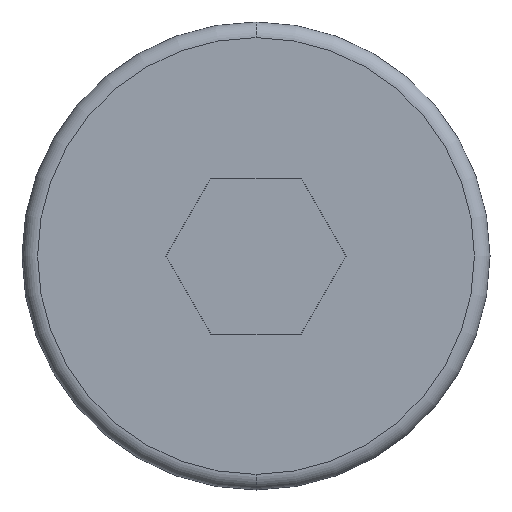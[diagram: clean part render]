
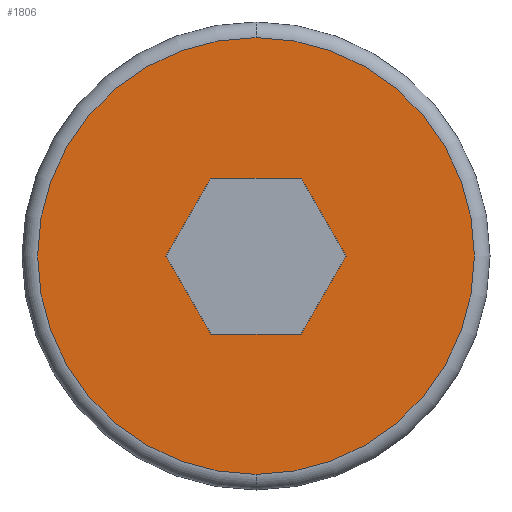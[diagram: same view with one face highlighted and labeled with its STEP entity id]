
A CAD part, front view. The second image highlights one B-rep face of the part: STEP entity #1806.
In plain terms, the highlighted planar face has unit normal (0, -1, 0).
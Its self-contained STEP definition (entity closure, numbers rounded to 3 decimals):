
#6 = AXIS2_PLACEMENT_3D ( 'NONE', #790, #483, #168 ) ;
#35 = ORIENTED_EDGE ( 'NONE', *, *, #2544, .T. ) ;
#73 = DIRECTION ( 'NONE',  ( -1., 0., 0. ) ) ;
#99 = VERTEX_POINT ( 'NONE', #2524 ) ;
#121 = CARTESIAN_POINT ( 'NONE',  ( 0., 0., 0. ) ) ;
#151 = VECTOR ( 'NONE', #3009, 1000. ) ;
#168 = DIRECTION ( 'NONE',  ( 0., 0., -1. ) ) ;
#284 = DIRECTION ( 'NONE',  ( 0.5, 0., 0.866 ) ) ;
#302 = CARTESIAN_POINT ( 'NONE',  ( -2.887, 0., 0. ) ) ;
#320 = CARTESIAN_POINT ( 'NONE',  ( 0., 0., 7. ) ) ;
#384 = CARTESIAN_POINT ( 'NONE',  ( 1.443, 0., 2.5 ) ) ;
#397 = FACE_OUTER_BOUND ( 'NONE', #1756, .T. ) ;
#414 = EDGE_CURVE ( 'NONE', #2030, #99, #2063, .T. ) ;
#483 = DIRECTION ( 'NONE',  ( 0., -1., 0. ) ) ;
#574 = PLANE ( 'NONE',  #2940 ) ;
#593 = CARTESIAN_POINT ( 'NONE',  ( 1.443, 0., -2.5 ) ) ;
#597 = EDGE_CURVE ( 'NONE', #1427, #2866, #610, .T. ) ;
#610 = LINE ( 'NONE', #302, #151 ) ;
#653 = VERTEX_POINT ( 'NONE', #320 ) ;
#693 = ORIENTED_EDGE ( 'NONE', *, *, #1850, .F. ) ;
#694 = LINE ( 'NONE', #384, #825 ) ;
#717 = CARTESIAN_POINT ( 'NONE',  ( 1.443, 0., -2.5 ) ) ;
#786 = LINE ( 'NONE', #2564, #1445 ) ;
#790 = CARTESIAN_POINT ( 'NONE',  ( 0., 0., 0. ) ) ;
#812 = CARTESIAN_POINT ( 'NONE',  ( 2.887, 0., 0. ) ) ;
#825 = VECTOR ( 'NONE', #73, 1000. ) ;
#856 = EDGE_LOOP ( 'NONE', ( #1503, #1888, #2069, #693, #1396, #951 ) ) ;
#900 = VECTOR ( 'NONE', #1212, 1000. ) ;
#951 = ORIENTED_EDGE ( 'NONE', *, *, #414, .F. ) ;
#980 = VECTOR ( 'NONE', #284, 1000. ) ;
#1212 = DIRECTION ( 'NONE',  ( -0.5, 0., -0.866 ) ) ;
#1396 = ORIENTED_EDGE ( 'NONE', *, *, #2928, .F. ) ;
#1427 = VERTEX_POINT ( 'NONE', #2430 ) ;
#1444 = DIRECTION ( 'NONE',  ( -0.5, 0., 0.866 ) ) ;
#1445 = VECTOR ( 'NONE', #2254, 1000. ) ;
#1467 = ORIENTED_EDGE ( 'NONE', *, *, #2753, .T. ) ;
#1503 = ORIENTED_EDGE ( 'NONE', *, *, #1918, .F. ) ;
#1512 = CARTESIAN_POINT ( 'NONE',  ( -1.443, 0., 2.5 ) ) ;
#1713 = VERTEX_POINT ( 'NONE', #2939 ) ;
#1728 = DIRECTION ( 'NONE',  ( 0., 0., -1. ) ) ;
#1748 = CARTESIAN_POINT ( 'NONE',  ( 2.887, 0., 0. ) ) ;
#1756 = EDGE_LOOP ( 'NONE', ( #1467, #35 ) ) ;
#1757 = CARTESIAN_POINT ( 'NONE',  ( -1.443, 0., -2.5 ) ) ;
#1764 = CARTESIAN_POINT ( 'NONE',  ( -1.443, 0., 2.5 ) ) ;
#1770 = CIRCLE ( 'NONE', #6, 7. ) ;
#1806 = ADVANCED_FACE ( 'NONE', ( #2863, #397 ), #574, .T. ) ;
#1830 = LINE ( 'NONE', #1512, #900 ) ;
#1850 = EDGE_CURVE ( 'NONE', #2357, #1427, #1830, .T. ) ;
#1888 = ORIENTED_EDGE ( 'NONE', *, *, #2975, .F. ) ;
#1918 = EDGE_CURVE ( 'NONE', #2647, #2030, #2139, .T. ) ;
#2030 = VERTEX_POINT ( 'NONE', #812 ) ;
#2044 = DIRECTION ( 'NONE',  ( 0., -1., 0. ) ) ;
#2063 = LINE ( 'NONE', #1748, #2313 ) ;
#2069 = ORIENTED_EDGE ( 'NONE', *, *, #597, .F. ) ;
#2139 = LINE ( 'NONE', #593, #980 ) ;
#2214 = DIRECTION ( 'NONE',  ( 0., 0., -1. ) ) ;
#2254 = DIRECTION ( 'NONE',  ( 1., 0., 0. ) ) ;
#2313 = VECTOR ( 'NONE', #1444, 1000. ) ;
#2356 = CARTESIAN_POINT ( 'NONE',  ( 0., 0., 0. ) ) ;
#2357 = VERTEX_POINT ( 'NONE', #1764 ) ;
#2430 = CARTESIAN_POINT ( 'NONE',  ( -2.887, 0., 0. ) ) ;
#2477 = CIRCLE ( 'NONE', #2756, 7. ) ;
#2524 = CARTESIAN_POINT ( 'NONE',  ( 1.443, 0., 2.5 ) ) ;
#2528 = DIRECTION ( 'NONE',  ( 0., -1., 0. ) ) ;
#2544 = EDGE_CURVE ( 'NONE', #653, #1713, #1770, .T. ) ;
#2564 = CARTESIAN_POINT ( 'NONE',  ( -1.443, 0., -2.5 ) ) ;
#2647 = VERTEX_POINT ( 'NONE', #717 ) ;
#2753 = EDGE_CURVE ( 'NONE', #1713, #653, #2477, .T. ) ;
#2756 = AXIS2_PLACEMENT_3D ( 'NONE', #121, #2528, #2214 ) ;
#2863 = FACE_BOUND ( 'NONE', #856, .T. ) ;
#2866 = VERTEX_POINT ( 'NONE', #1757 ) ;
#2928 = EDGE_CURVE ( 'NONE', #99, #2357, #694, .T. ) ;
#2939 = CARTESIAN_POINT ( 'NONE',  ( 0., 0., -7. ) ) ;
#2940 = AXIS2_PLACEMENT_3D ( 'NONE', #2356, #2044, #1728 ) ;
#2975 = EDGE_CURVE ( 'NONE', #2866, #2647, #786, .T. ) ;
#3009 = DIRECTION ( 'NONE',  ( 0.5, 0., -0.866 ) ) ;
